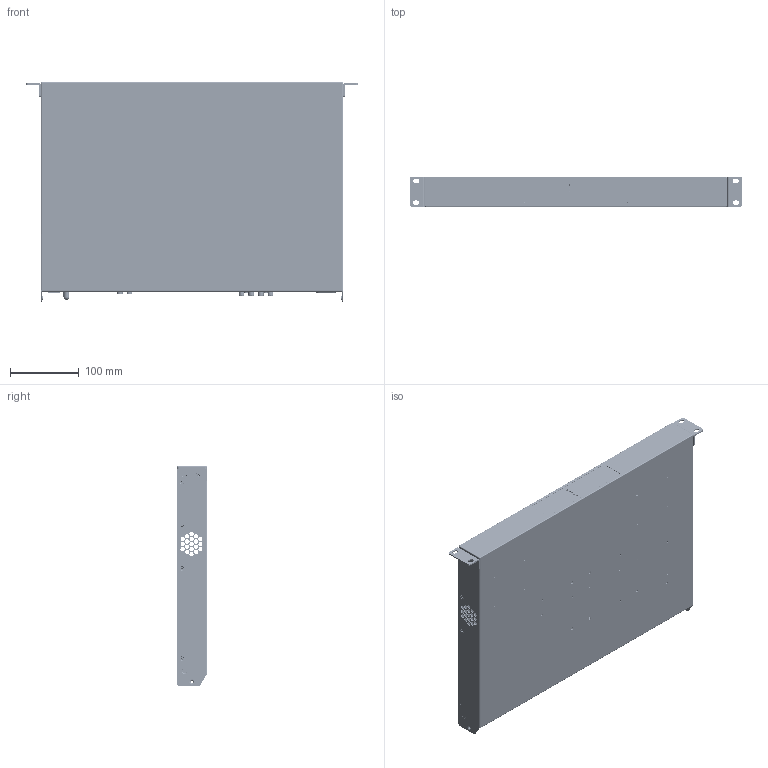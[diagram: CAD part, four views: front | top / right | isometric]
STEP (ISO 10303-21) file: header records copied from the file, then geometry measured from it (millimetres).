
FILE_DESCRIPTION (( 'STEP AP214' ), '1' );
FILE_NAME ('Sonance PowerZone Connect PRO 600.4D Assembly.STEP', '2026-06-01T19:08:33', ( '' ), ( '' ), 'SwSTEP 2.0', 'SolidWorks 2025', '' );
FILE_SCHEMA (( 'AUTOMOTIVE_DESIGN' ));
Length unit declared in the file: millimetre
Products named in the file (1): Sonance PowerZone Connect PRO 600.4D Assembly
Bounding box: 483 x 43.9 x 320 mm (x, y, z)
Surface area: 980240.3 mm2 (no closed solid volume)
Topology: 0 solids, 380 shells, 14750 faces, 37171 edges, 23566 vertices
Faces by surface type: plane 8843, cylinder 4036, cone 1124, torus 397, sphere 196, bspline 154
Entity records: 452726 total; most frequent: CARTESIAN_POINT 89027, DIRECTION 74557, ORIENTED_EDGE 73797, EDGE_CURVE 36945, VECTOR 25015, LINE 25015, AXIS2_PLACEMENT_3D 24771, VERTEX_POINT 23562
